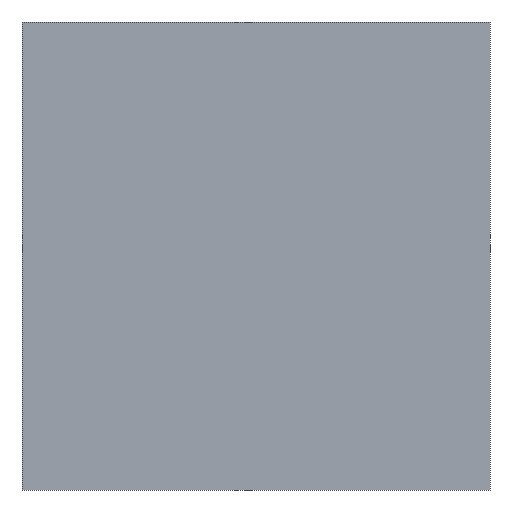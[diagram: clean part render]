
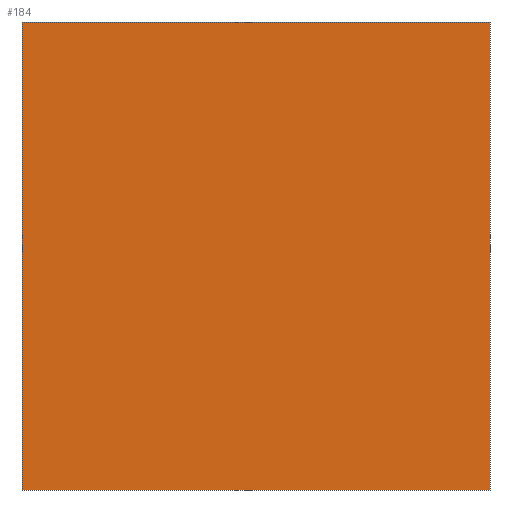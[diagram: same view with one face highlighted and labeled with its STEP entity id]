
A CAD part, front view. The second image highlights one B-rep face of the part: STEP entity #184.
In plain terms, the highlighted planar face has unit normal (0, -1, 0).
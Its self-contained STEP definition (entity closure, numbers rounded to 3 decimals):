
#184 = ADVANCED_FACE( '', ( #376 ), #377, .F. );
#376 = FACE_OUTER_BOUND( '', #576, .T. );
#377 = PLANE( '', #577 );
#576 = EDGE_LOOP( '', ( #948, #949, #950, #951 ) );
#577 = AXIS2_PLACEMENT_3D( '', #952, #953, #954 );
#948 = ORIENTED_EDGE( '', *, *, #1270, .T. );
#949 = ORIENTED_EDGE( '', *, *, #1185, .F. );
#950 = ORIENTED_EDGE( '', *, *, #1167, .F. );
#951 = ORIENTED_EDGE( '', *, *, #1239, .T. );
#952 = CARTESIAN_POINT( '', ( 10.7, -25., 10.7 ) );
#953 = DIRECTION( '', ( 0., 1., 0. ) );
#954 = DIRECTION( '', ( 0., 0., 1. ) );
#1167 = EDGE_CURVE( '', #1371, #1366, #1373, .T. );
#1185 = EDGE_CURVE( '', #1366, #1398, #1402, .T. );
#1239 = EDGE_CURVE( '', #1371, #1475, #1477, .T. );
#1270 = EDGE_CURVE( '', #1475, #1398, #1517, .T. );
#1366 = VERTEX_POINT( '', #1628 );
#1371 = VERTEX_POINT( '', #1635 );
#1373 = LINE( '', #1638, #1639 );
#1398 = VERTEX_POINT( '', #1671 );
#1402 = LINE( '', #1677, #1678 );
#1475 = VERTEX_POINT( '', #1777 );
#1477 = LINE( '', #1780, #1781 );
#1517 = LINE( '', #1836, #1837 );
#1628 = CARTESIAN_POINT( '', ( 10.7, -25., -10.7 ) );
#1635 = CARTESIAN_POINT( '', ( 10.7, -25., 10.7 ) );
#1638 = CARTESIAN_POINT( '', ( 10.7, -25., 10.7 ) );
#1639 = VECTOR( '', #1939, 1000. );
#1671 = CARTESIAN_POINT( '', ( -10.7, -25., -10.7 ) );
#1677 = CARTESIAN_POINT( '', ( 10.7, -25., -10.7 ) );
#1678 = VECTOR( '', #1961, 1000. );
#1777 = CARTESIAN_POINT( '', ( -10.7, -25., 10.7 ) );
#1780 = CARTESIAN_POINT( '', ( 10.7, -25., 10.7 ) );
#1781 = VECTOR( '', #2022, 1000. );
#1836 = CARTESIAN_POINT( '', ( -10.7, -25., 10.7 ) );
#1837 = VECTOR( '', #2053, 1000. );
#1939 = DIRECTION( '', ( 0., 0., -1. ) );
#1961 = DIRECTION( '', ( -1., 0., 0. ) );
#2022 = DIRECTION( '', ( -1., 0., 0. ) );
#2053 = DIRECTION( '', ( 0., 0., -1. ) );
